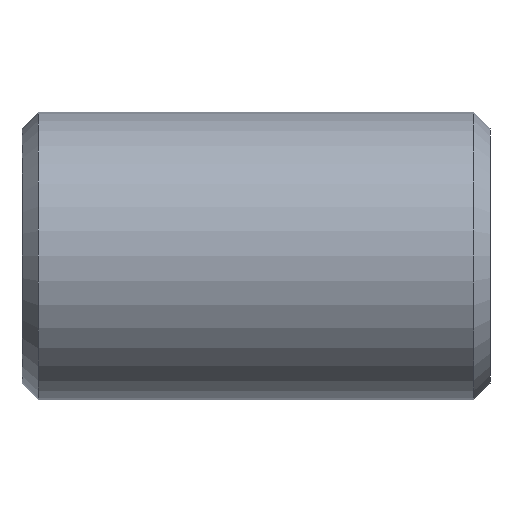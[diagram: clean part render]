
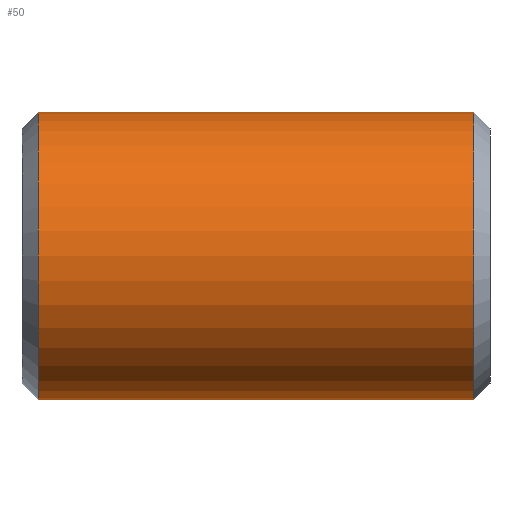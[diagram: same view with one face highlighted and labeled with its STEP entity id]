
A CAD part, left-side view. The second image highlights one B-rep face of the part: STEP entity #50.
In plain terms, the highlighted cylindrical face has radius 13.22 mm (diameter 26.441 mm), a full revolution.
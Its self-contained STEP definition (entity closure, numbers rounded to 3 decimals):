
#50=ADVANCED_FACE('',(#103,#105),#107,.T.);
#103=FACE_OUTER_BOUND('',#104,.T.);
#104=EDGE_LOOP('',(#192));
#105=FACE_OUTER_BOUND('',#106,.T.);
#106=EDGE_LOOP('',(#193));
#107=CYLINDRICAL_SURFACE('',#108,13.221);
#108=AXIS2_PLACEMENT_3D('',#109,#110,#111);
#109=CARTESIAN_POINT('',(0.,-21.5,0.));
#110=DIRECTION('',(0.,1.,0.));
#111=DIRECTION('',(-1.,0.,0.));
#192=ORIENTED_EDGE('',*,*,#238,.F.);
#193=ORIENTED_EDGE('',*,*,#239,.T.);
#238=EDGE_CURVE('',#284,#284,#285,.T.);
#239=EDGE_CURVE('',#286,#286,#287,.T.);
#284=VERTEX_POINT('',#390);
#285=CIRCLE('',#391,13.221);
#286=VERTEX_POINT('',#395);
#287=CIRCLE('',#396,13.221);
#390=CARTESIAN_POINT('',(-13.221,20.,0.));
#391=AXIS2_PLACEMENT_3D('',#392,#393,#394);
#392=CARTESIAN_POINT('',(0.,20.,0.));
#393=DIRECTION('',(0.,1.,0.));
#394=DIRECTION('',(-1.,0.,0.));
#395=CARTESIAN_POINT('',(-13.221,-20.,0.));
#396=AXIS2_PLACEMENT_3D('',#397,#398,#399);
#397=CARTESIAN_POINT('',(0.,-20.,0.));
#398=DIRECTION('',(0.,1.,0.));
#399=DIRECTION('',(-1.,0.,0.));
